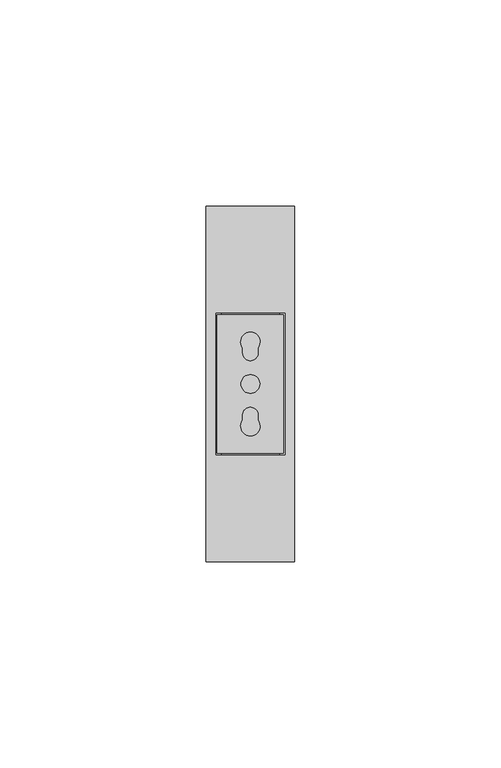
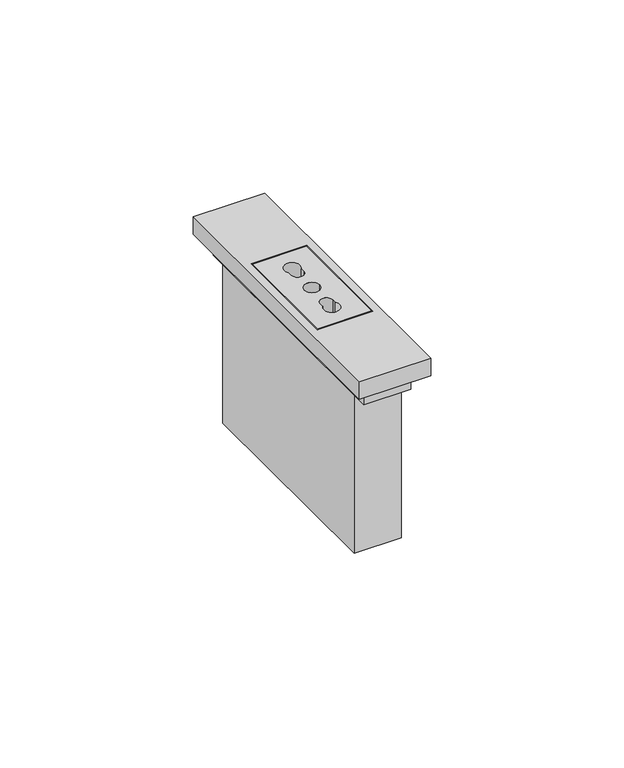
"""IFC4 building model written with IfcOpenShell, lengths in millimetres: proxy geometry, BT_LN-PresaBipasso : Presa Bipasso - Art. KW4180 - 1M - Cover Bianco."""

from ifc_helpers import new_model, si_unit, point, frame, frame_2d, origin, origin_with_axes, origin_2d, place, context, project, spatial, polyline, circle_curve, trimmed, segment, composite_curve, outline, extrude, source, transform, mapped, element, save


def electrical_fixtures_2f19633e(model_context):
    return source(origin(), model_context, "Body", "SweptSolid", [
        extrude(outline(polyline([(-7.0, 39.0), (7.0, 39.0), (7.0, -39.0), (-7.0, -39.0), (-7.0, 39.0)])), frame((0.0, 0.0, 50.0), z_axis=(0.0, 0.0, 1.0), x_axis=(1.0, 0.0, 0.0)), (0.0, 0.0, 1.0), 5.5),
        extrude(outline(polyline([(-7.0, 34.0), (7.0, 34.0), (7.0, -34.0), (-7.0, -34.0), (-7.0, 34.0)])), origin_with_axes(), (0.0, 0.0, 1.0), 50.0),
        extrude(outline(polyline([(-8.0433174, 16.8017303), (8.0433174, 16.8017303), (8.0433174, -16.8017303), (-8.0433174, -16.8017303), (-8.0433174, 16.8017303)]), holes=[composite_curve([segment(trimmed(circle_curve(origin_2d(), 2.274342), [point((-2.274342, 0.0))], [point((2.274342, 0.0))], True, "CARTESIAN"), True, "CONTINUOUS"), segment(trimmed(circle_curve(origin_2d(), 2.274342), [point((2.274342, 0.0))], [point((-2.274342, 0.0))], True, "CARTESIAN"), True, "CONTINUOUS")], self_intersect=False), composite_curve([segment(polyline([(1.8461232, 7.5063209), (1.8461232, 8.7852695)]), True, "CONTINUOUS"), segment(trimmed(circle_curve(frame_2d((0.0, 10.2279554)), 2.3429711), [point((1.8461232, 8.7852695))], [point((-1.8461232, 8.7852695))], True, "CARTESIAN"), True, "CONTINUOUS"), segment(polyline([(-1.8461232, 8.7852695), (-1.8461232, 7.5063209)]), True, "CONTINUOUS"), segment(trimmed(circle_curve(frame_2d((0.0, 7.5063209)), 1.8461232), [point((-1.8461232, 7.5063209))], [point((1.8461232, 7.5063209))], True, "CARTESIAN"), True, "CONTINUOUS")], self_intersect=False), composite_curve([segment(trimmed(circle_curve(frame_2d((0.0, -7.5063209)), 1.8461232), [point((1.8461232, -7.5063209))], [point((-1.8461232, -7.5063209))], True, "CARTESIAN"), True, "CONTINUOUS"), segment(polyline([(-1.8461232, -7.5063209), (-1.8461232, -8.7852695)]), True, "CONTINUOUS"), segment(trimmed(circle_curve(frame_2d((0.0, -10.2279554)), 2.3429711), [point((-1.8461232, -8.7852695))], [point((1.8461232, -8.7852695))], True, "CARTESIAN"), True, "CONTINUOUS"), segment(polyline([(1.8461232, -8.7852695), (1.8461232, -7.5063209)]), True, "CONTINUOUS")], self_intersect=False)]), frame((0.0, 0.0, 55.5), z_axis=(0.0, 0.0, 1.0), x_axis=(1.0, 0.0, 0.0)), (0.0, 0.0, 1.0), 5.5),
        extrude(outline(polyline([(-10.7, -43.0), (-10.7, 43.0), (10.7, 43.0), (10.7, -43.0), (-10.7, -43.0)]), holes=[polyline([(-8.3433174, -17.1017303), (8.3433174, -17.1017303), (8.3433174, 17.1017303), (-8.3433174, 17.1017303), (-8.3433174, -17.1017303)])]), frame((0.0, 0.0, 55.5), z_axis=(0.0, 0.0, 1.0), x_axis=(1.0, 0.0, 0.0)), (0.0, 0.0, 1.0), 5.5),
    ])


if __name__ == "__main__":
    model = new_model("IFC4")
    model_context = context("Model", 3, world=origin())
    ifc_project = project(units=[si_unit("LENGTHUNIT", "METRE", prefix="MILLI")], contexts=[model_context])
    site = spatial("IfcSite", under=ifc_project)
    building = spatial("IfcBuilding", under=site)
    placement = place(None, origin())
    electrical_fixtures_shape = electrical_fixtures_2f19633e(model_context)
    element("IfcBuildingElementProxy", 1, Name="BT_LN-PresaBipasso : Presa Bipasso - Art. KW4180 - 1M - Cover Bianco", ObjectType="BT_LN-PresaBipasso : Presa Bipasso - Art. KW4180 - 1M - Cover Bianco", at=placement, inside=building, context=model_context, shape_type="MappedRepresentation", body=[
        mapped(electrical_fixtures_shape, transform((0.0, 0.0, 0.0), x_axis=(1.0, 0.0, 0.0), y_axis=(0.0, 1.0, 0.0), z_axis=(0.0, 0.0, 1.0))),
    ])
    save(model, "model.ifc")
